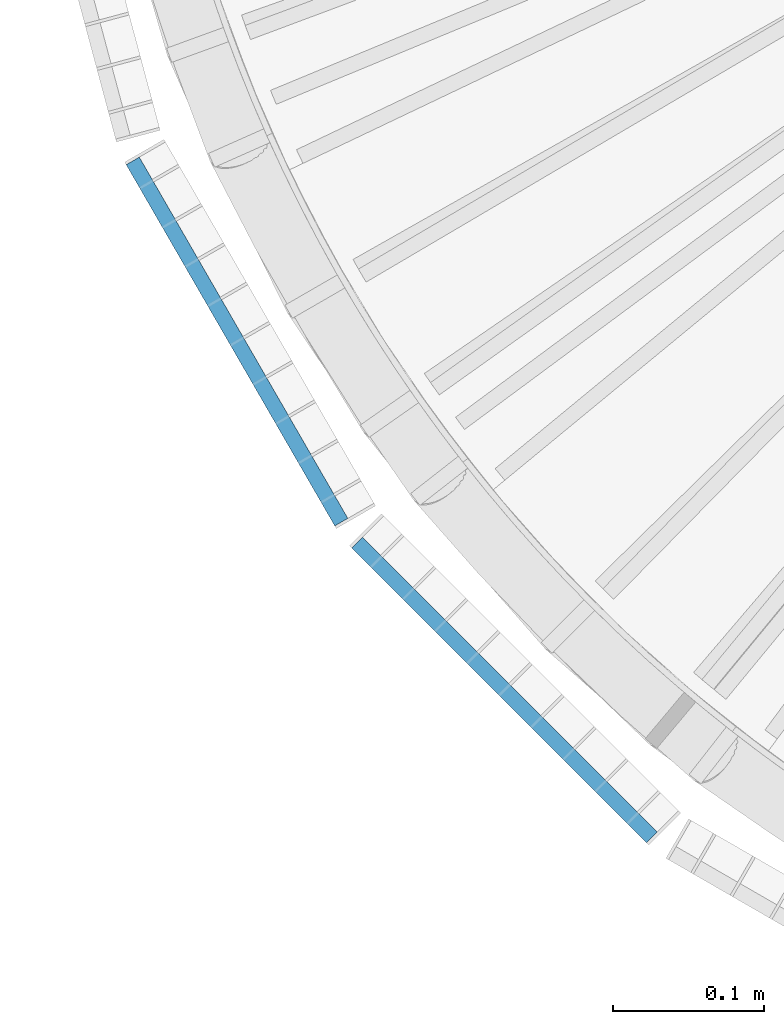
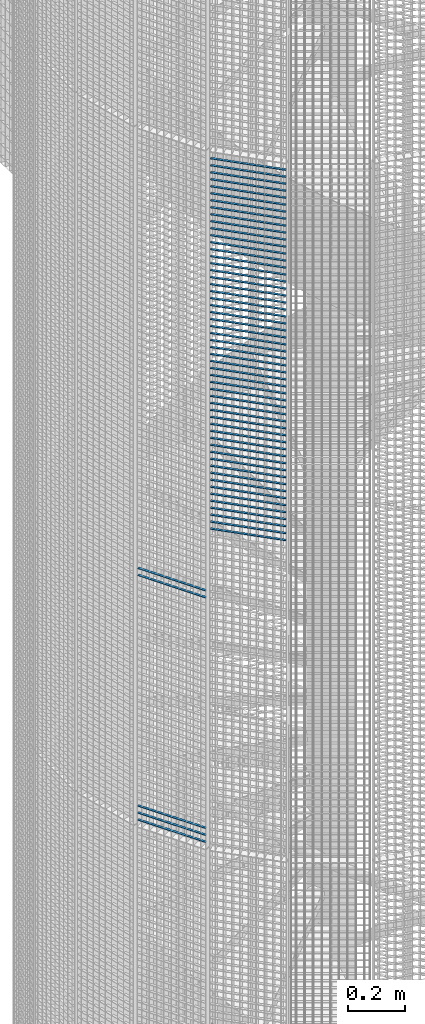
# One storey, part 360 of 1148: 59 beams, 2 elements without a shape of their own.
"""IFC2X3 building model written with IfcOpenShell, lengths in millimetres."""

from ifc_helpers import new_model, si_unit, frame, origin_with_axes, origin_2d_with_axis, place, context, subcontext, project, spatial, rectangle, extrude, material, type_object, element, aggregate, save


model = new_model("IFC2X3")

# Units and contexts
model_context = context("Model", 3, precision=1e-05, world=origin_with_axes())
body_context = subcontext(model_context, "Body", "Model", "MODEL_VIEW")
ifc_project = project(units=[si_unit("LENGTHUNIT", "METRE", prefix="MILLI"), si_unit("AREAUNIT", "SQUARE_METRE"), si_unit("VOLUMEUNIT", "CUBIC_METRE"), si_unit("MASSUNIT", "GRAM", prefix="KILO"), si_unit("TIMEUNIT", "SECOND"), si_unit("PLANEANGLEUNIT", "RADIAN"), si_unit("SOLIDANGLEUNIT", "STERADIAN"), si_unit("THERMODYNAMICTEMPERATUREUNIT", "DEGREE_CELSIUS"), si_unit("LUMINOUSINTENSITYUNIT", "LUMEN")], contexts=[model_context])

# Site, building, storey
site_placement = place(None, origin_with_axes())
site = spatial("IfcSite", under=ifc_project, at=site_placement, Name="Undefined", CompositionType="ELEMENT")
building_placement = place(site_placement, origin_with_axes())
building = spatial("IfcBuilding", under=site, at=building_placement, Name="Undefined", CompositionType="ELEMENT")
storey_placement = place(building_placement, origin_with_axes())
storey = spatial("IfcBuildingStorey", under=building, at=storey_placement, Name="Undefined", CompositionType="ELEMENT", Elevation=0.0)

# Assembly, beams
assembly_1_placement = place(storey_placement, origin_with_axes())
assembly_1 = element("IfcElementAssembly", 1, at=assembly_1_placement, inside=storey, Name="BORDURE", AssemblyPlace="NOTDEFINED", PredefinedType="NOTDEFINED")
ifc_material = material(Name="STEEL/S235JR")
beam_type = type_object("IfcBeamType", Name="PL2*10", PredefinedType="NOTDEFINED")
beam_1_placement = place(assembly_1_placement, frame((20704.6960350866, -676.248044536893, 4080.0), z_axis=(-0.866025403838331, -0.499999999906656, 0.0), x_axis=(-0.49999999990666, 0.866025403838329, 0.0)))
beam_1 = element("IfcBeam", 2, at=beam_1_placement, type_object=beam_type, material=ifc_material, Name="ENTRETOISE", context=body_context, shape_type="SweptSolid", body=[
    extrude(rectangle(XDim=2.0, YDim=10.0, at=origin_2d_with_axis()), frame((275.999999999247, 9.09494701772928e-13, 1.53210777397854e-14), z_axis=(-1.0, 0.0, 0.0), x_axis=(0.0, -1.0, 0.0)), (0.0, 0.0, 1.0), 276.0),
])
beam_2_placement = place(assembly_1_placement, frame((20704.6960350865, -676.248044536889, 3090.0), z_axis=(-0.866025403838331, -0.499999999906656, 0.0), x_axis=(-0.49999999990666, 0.866025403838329, 0.0)))
beam_2 = element("IfcBeam", 3, at=beam_2_placement, type_object=beam_type, material=ifc_material, Name="ENTRETOISE", context=body_context, shape_type="SweptSolid", body=[
    extrude(rectangle(XDim=2.0, YDim=10.0, at=origin_2d_with_axis()), frame((275.999999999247, 9.09494701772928e-13, 1.53210777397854e-14), z_axis=(-1.0, 0.0, 0.0), x_axis=(0.0, -1.0, 0.0)), (0.0, 0.0, 1.0), 276.0),
])
beam_3_placement = place(assembly_1_placement, frame((20704.6960350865, -676.248044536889, 3060.0), z_axis=(-0.866025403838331, -0.499999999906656, 0.0), x_axis=(-0.49999999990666, 0.866025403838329, 0.0)))
beam_3 = element("IfcBeam", 4, at=beam_3_placement, type_object=beam_type, material=ifc_material, Name="ENTRETOISE", context=body_context, shape_type="SweptSolid", body=[
    extrude(rectangle(XDim=2.0, YDim=10.0, at=origin_2d_with_axis()), frame((275.999999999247, 9.09494701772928e-13, 1.53210777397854e-14), z_axis=(-1.0, 0.0, 0.0), x_axis=(0.0, -1.0, 0.0)), (0.0, 0.0, 1.0), 276.0),
])
beam_4_placement = place(assembly_1_placement, frame((20704.6960350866, -676.248044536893, 4110.0), z_axis=(-0.866025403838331, -0.499999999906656, 0.0), x_axis=(-0.49999999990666, 0.866025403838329, 0.0)))
beam_4 = element("IfcBeam", 5, at=beam_4_placement, type_object=beam_type, material=ifc_material, Name="ENTRETOISE", context=body_context, shape_type="SweptSolid", body=[
    extrude(rectangle(XDim=2.0, YDim=10.0, at=origin_2d_with_axis()), frame((275.999999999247, 9.09494701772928e-13, 1.53210777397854e-14), z_axis=(-1.0, 0.0, 0.0), x_axis=(0.0, -1.0, 0.0)), (0.0, 0.0, 1.0), 276.0),
])
beam_5_placement = place(assembly_1_placement, frame((20704.6960350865, -676.248044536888, 3030.0), z_axis=(-0.866025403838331, -0.499999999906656, 0.0), x_axis=(-0.49999999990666, 0.866025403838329, 0.0)))
beam_5 = element("IfcBeam", 6, at=beam_5_placement, type_object=beam_type, material=ifc_material, Name="ENTRETOISE", context=body_context, shape_type="SweptSolid", body=[
    extrude(rectangle(XDim=2.0, YDim=10.0, at=origin_2d_with_axis()), frame((275.999999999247, 9.09494701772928e-13, 1.53210777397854e-14), z_axis=(-1.0, 0.0, 0.0), x_axis=(0.0, -1.0, 0.0)), (0.0, 0.0, 1.0), 276.0),
])
aggregate(assembly_1, [beam_1, beam_2, beam_3, beam_4, beam_5])

assembly_2_placement = place(storey_placement, origin_with_axes())
assembly_2 = element("IfcElementAssembly", 7, at=assembly_2_placement, inside=storey, Name="BORDURE", AssemblyPlace="NOTDEFINED", PredefinedType="NOTDEFINED")
beam_6_placement = place(assembly_2_placement, frame((20910.2286510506, -884.927168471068, 5970.0), z_axis=(-0.70710678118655, -0.707106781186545, 0.0), x_axis=(-0.707106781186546, 0.707106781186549, 0.0)))
beam_6 = element("IfcBeam", 8, at=beam_6_placement, type_object=beam_type, material=ifc_material, Name="ENTRETOISE", context=body_context, shape_type="SweptSolid", body=[
    extrude(rectangle(XDim=2.0, YDim=10.0, at=origin_2d_with_axis()), frame((275.999999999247, 9.09494701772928e-13, 1.53210777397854e-14), z_axis=(-1.0, 0.0, 0.0), x_axis=(0.0, -1.0, 0.0)), (0.0, 0.0, 1.0), 276.0),
])
beam_7_placement = place(assembly_2_placement, frame((20910.2286510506, -884.927168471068, 5940.0), z_axis=(-0.70710678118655, -0.707106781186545, 0.0), x_axis=(-0.707106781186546, 0.707106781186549, 0.0)))
beam_7 = element("IfcBeam", 9, at=beam_7_placement, type_object=beam_type, material=ifc_material, Name="ENTRETOISE", context=body_context, shape_type="SweptSolid", body=[
    extrude(rectangle(XDim=2.0, YDim=10.0, at=origin_2d_with_axis()), frame((275.999999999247, 9.09494701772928e-13, 1.53210777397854e-14), z_axis=(-1.0, 0.0, 0.0), x_axis=(0.0, -1.0, 0.0)), (0.0, 0.0, 1.0), 276.0),
])
beam_8_placement = place(assembly_2_placement, frame((20910.2286510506, -884.927168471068, 5910.0), z_axis=(-0.70710678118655, -0.707106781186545, 0.0), x_axis=(-0.707106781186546, 0.707106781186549, 0.0)))
beam_8 = element("IfcBeam", 10, at=beam_8_placement, type_object=beam_type, material=ifc_material, Name="ENTRETOISE", context=body_context, shape_type="SweptSolid", body=[
    extrude(rectangle(XDim=2.0, YDim=10.0, at=origin_2d_with_axis()), frame((275.999999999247, 9.09494701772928e-13, 1.53210777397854e-14), z_axis=(-1.0, 0.0, 0.0), x_axis=(0.0, -1.0, 0.0)), (0.0, 0.0, 1.0), 276.0),
])
beam_9_placement = place(assembly_2_placement, frame((20910.2286510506, -884.927168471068, 5880.0), z_axis=(-0.70710678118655, -0.707106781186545, 0.0), x_axis=(-0.707106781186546, 0.707106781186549, 0.0)))
beam_9 = element("IfcBeam", 11, at=beam_9_placement, type_object=beam_type, material=ifc_material, Name="ENTRETOISE", context=body_context, shape_type="SweptSolid", body=[
    extrude(rectangle(XDim=2.0, YDim=10.0, at=origin_2d_with_axis()), frame((275.999999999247, 9.09494701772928e-13, 1.53210777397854e-14), z_axis=(-1.0, 0.0, 0.0), x_axis=(0.0, -1.0, 0.0)), (0.0, 0.0, 1.0), 276.0),
])
beam_10_placement = place(assembly_2_placement, frame((20910.2286510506, -884.927168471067, 5850.0), z_axis=(-0.70710678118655, -0.707106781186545, 0.0), x_axis=(-0.707106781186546, 0.707106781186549, 0.0)))
beam_10 = element("IfcBeam", 12, at=beam_10_placement, type_object=beam_type, material=ifc_material, Name="ENTRETOISE", context=body_context, shape_type="SweptSolid", body=[
    extrude(rectangle(XDim=2.0, YDim=10.0, at=origin_2d_with_axis()), frame((275.999999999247, 9.09494701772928e-13, 1.53210777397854e-14), z_axis=(-1.0, 0.0, 0.0), x_axis=(0.0, -1.0, 0.0)), (0.0, 0.0, 1.0), 276.0),
])
beam_11_placement = place(assembly_2_placement, frame((20910.2286510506, -884.927168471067, 5820.0), z_axis=(-0.70710678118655, -0.707106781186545, 0.0), x_axis=(-0.707106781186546, 0.707106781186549, 0.0)))
beam_11 = element("IfcBeam", 13, at=beam_11_placement, type_object=beam_type, material=ifc_material, Name="ENTRETOISE", context=body_context, shape_type="SweptSolid", body=[
    extrude(rectangle(XDim=2.0, YDim=10.0, at=origin_2d_with_axis()), frame((275.999999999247, 9.09494701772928e-13, 1.53210777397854e-14), z_axis=(-1.0, 0.0, 0.0), x_axis=(0.0, -1.0, 0.0)), (0.0, 0.0, 1.0), 276.0),
])
beam_12_placement = place(assembly_2_placement, frame((20910.2286510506, -884.927168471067, 5790.0), z_axis=(-0.70710678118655, -0.707106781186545, 0.0), x_axis=(-0.707106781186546, 0.707106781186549, 0.0)))
beam_12 = element("IfcBeam", 14, at=beam_12_placement, type_object=beam_type, material=ifc_material, Name="ENTRETOISE", context=body_context, shape_type="SweptSolid", body=[
    extrude(rectangle(XDim=2.0, YDim=10.0, at=origin_2d_with_axis()), frame((275.999999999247, 9.09494701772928e-13, 1.53210777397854e-14), z_axis=(-1.0, 0.0, 0.0), x_axis=(0.0, -1.0, 0.0)), (0.0, 0.0, 1.0), 276.0),
])
beam_13_placement = place(assembly_2_placement, frame((20910.2286510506, -884.927168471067, 5760.0), z_axis=(-0.70710678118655, -0.707106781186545, 0.0), x_axis=(-0.707106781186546, 0.707106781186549, 0.0)))
beam_13 = element("IfcBeam", 15, at=beam_13_placement, type_object=beam_type, material=ifc_material, Name="ENTRETOISE", context=body_context, shape_type="SweptSolid", body=[
    extrude(rectangle(XDim=2.0, YDim=10.0, at=origin_2d_with_axis()), frame((275.999999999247, 9.09494701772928e-13, 1.53210777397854e-14), z_axis=(-1.0, 0.0, 0.0), x_axis=(0.0, -1.0, 0.0)), (0.0, 0.0, 1.0), 276.0),
])
beam_14_placement = place(assembly_2_placement, frame((20910.2286510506, -884.927168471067, 5730.0), z_axis=(-0.70710678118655, -0.707106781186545, 0.0), x_axis=(-0.707106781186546, 0.707106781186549, 0.0)))
beam_14 = element("IfcBeam", 16, at=beam_14_placement, type_object=beam_type, material=ifc_material, Name="ENTRETOISE", context=body_context, shape_type="SweptSolid", body=[
    extrude(rectangle(XDim=2.0, YDim=10.0, at=origin_2d_with_axis()), frame((275.999999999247, 9.09494701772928e-13, 1.53210777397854e-14), z_axis=(-1.0, 0.0, 0.0), x_axis=(0.0, -1.0, 0.0)), (0.0, 0.0, 1.0), 276.0),
])
beam_15_placement = place(assembly_2_placement, frame((20910.2286510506, -884.927168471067, 5700.0), z_axis=(-0.70710678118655, -0.707106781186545, 0.0), x_axis=(-0.707106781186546, 0.707106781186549, 0.0)))
beam_15 = element("IfcBeam", 17, at=beam_15_placement, type_object=beam_type, material=ifc_material, Name="ENTRETOISE", context=body_context, shape_type="SweptSolid", body=[
    extrude(rectangle(XDim=2.0, YDim=10.0, at=origin_2d_with_axis()), frame((275.999999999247, 9.09494701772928e-13, 1.53210777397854e-14), z_axis=(-1.0, 0.0, 0.0), x_axis=(0.0, -1.0, 0.0)), (0.0, 0.0, 1.0), 276.0),
])
beam_16_placement = place(assembly_2_placement, frame((20910.2286510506, -884.927168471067, 5670.0), z_axis=(-0.70710678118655, -0.707106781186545, 0.0), x_axis=(-0.707106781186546, 0.707106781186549, 0.0)))
beam_16 = element("IfcBeam", 18, at=beam_16_placement, type_object=beam_type, material=ifc_material, Name="ENTRETOISE", context=body_context, shape_type="SweptSolid", body=[
    extrude(rectangle(XDim=2.0, YDim=10.0, at=origin_2d_with_axis()), frame((275.999999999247, 9.09494701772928e-13, 1.53210777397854e-14), z_axis=(-1.0, 0.0, 0.0), x_axis=(0.0, -1.0, 0.0)), (0.0, 0.0, 1.0), 276.0),
])
beam_17_placement = place(assembly_2_placement, frame((20910.2286510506, -884.927168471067, 5640.0), z_axis=(-0.70710678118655, -0.707106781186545, 0.0), x_axis=(-0.707106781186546, 0.707106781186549, 0.0)))
beam_17 = element("IfcBeam", 19, at=beam_17_placement, type_object=beam_type, material=ifc_material, Name="ENTRETOISE", context=body_context, shape_type="SweptSolid", body=[
    extrude(rectangle(XDim=2.0, YDim=10.0, at=origin_2d_with_axis()), frame((275.999999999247, 9.09494701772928e-13, 1.53210777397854e-14), z_axis=(-1.0, 0.0, 0.0), x_axis=(0.0, -1.0, 0.0)), (0.0, 0.0, 1.0), 276.0),
])
beam_18_placement = place(assembly_2_placement, frame((20910.2286510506, -884.927168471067, 5610.0), z_axis=(-0.70710678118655, -0.707106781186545, 0.0), x_axis=(-0.707106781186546, 0.707106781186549, 0.0)))
beam_18 = element("IfcBeam", 20, at=beam_18_placement, type_object=beam_type, material=ifc_material, Name="ENTRETOISE", context=body_context, shape_type="SweptSolid", body=[
    extrude(rectangle(XDim=2.0, YDim=10.0, at=origin_2d_with_axis()), frame((275.999999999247, 9.09494701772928e-13, 1.53210777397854e-14), z_axis=(-1.0, 0.0, 0.0), x_axis=(0.0, -1.0, 0.0)), (0.0, 0.0, 1.0), 276.0),
])
beam_19_placement = place(assembly_2_placement, frame((20910.2286510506, -884.927168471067, 5580.0), z_axis=(-0.70710678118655, -0.707106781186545, 0.0), x_axis=(-0.707106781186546, 0.707106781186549, 0.0)))
beam_19 = element("IfcBeam", 21, at=beam_19_placement, type_object=beam_type, material=ifc_material, Name="ENTRETOISE", context=body_context, shape_type="SweptSolid", body=[
    extrude(rectangle(XDim=2.0, YDim=10.0, at=origin_2d_with_axis()), frame((275.999999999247, 9.09494701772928e-13, 1.53210777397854e-14), z_axis=(-1.0, 0.0, 0.0), x_axis=(0.0, -1.0, 0.0)), (0.0, 0.0, 1.0), 276.0),
])
beam_20_placement = place(assembly_2_placement, frame((20910.2286510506, -884.927168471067, 5550.0), z_axis=(-0.70710678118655, -0.707106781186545, 0.0), x_axis=(-0.707106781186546, 0.707106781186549, 0.0)))
beam_20 = element("IfcBeam", 22, at=beam_20_placement, type_object=beam_type, material=ifc_material, Name="ENTRETOISE", context=body_context, shape_type="SweptSolid", body=[
    extrude(rectangle(XDim=2.0, YDim=10.0, at=origin_2d_with_axis()), frame((275.999999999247, 9.09494701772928e-13, 1.53210777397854e-14), z_axis=(-1.0, 0.0, 0.0), x_axis=(0.0, -1.0, 0.0)), (0.0, 0.0, 1.0), 276.0),
])
beam_21_placement = place(assembly_2_placement, frame((20910.2286510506, -884.927168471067, 5520.0), z_axis=(-0.70710678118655, -0.707106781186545, 0.0), x_axis=(-0.707106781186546, 0.707106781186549, 0.0)))
beam_21 = element("IfcBeam", 23, at=beam_21_placement, type_object=beam_type, material=ifc_material, Name="ENTRETOISE", context=body_context, shape_type="SweptSolid", body=[
    extrude(rectangle(XDim=2.0, YDim=10.0, at=origin_2d_with_axis()), frame((275.999999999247, 9.09494701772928e-13, 1.53210777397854e-14), z_axis=(-1.0, 0.0, 0.0), x_axis=(0.0, -1.0, 0.0)), (0.0, 0.0, 1.0), 276.0),
])
beam_22_placement = place(assembly_2_placement, frame((20910.2286510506, -884.927168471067, 5490.0), z_axis=(-0.70710678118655, -0.707106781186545, 0.0), x_axis=(-0.707106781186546, 0.707106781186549, 0.0)))
beam_22 = element("IfcBeam", 24, at=beam_22_placement, type_object=beam_type, material=ifc_material, Name="ENTRETOISE", context=body_context, shape_type="SweptSolid", body=[
    extrude(rectangle(XDim=2.0, YDim=10.0, at=origin_2d_with_axis()), frame((275.999999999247, 9.09494701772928e-13, 1.53210777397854e-14), z_axis=(-1.0, 0.0, 0.0), x_axis=(0.0, -1.0, 0.0)), (0.0, 0.0, 1.0), 276.0),
])
beam_23_placement = place(assembly_2_placement, frame((20910.2286510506, -884.927168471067, 5460.0), z_axis=(-0.70710678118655, -0.707106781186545, 0.0), x_axis=(-0.707106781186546, 0.707106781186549, 0.0)))
beam_23 = element("IfcBeam", 25, at=beam_23_placement, type_object=beam_type, material=ifc_material, Name="ENTRETOISE", context=body_context, shape_type="SweptSolid", body=[
    extrude(rectangle(XDim=2.0, YDim=10.0, at=origin_2d_with_axis()), frame((275.999999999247, 9.09494701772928e-13, 1.53210777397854e-14), z_axis=(-1.0, 0.0, 0.0), x_axis=(0.0, -1.0, 0.0)), (0.0, 0.0, 1.0), 276.0),
])
beam_24_placement = place(assembly_2_placement, frame((20910.2286510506, -884.927168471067, 5430.0), z_axis=(-0.70710678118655, -0.707106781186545, 0.0), x_axis=(-0.707106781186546, 0.707106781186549, 0.0)))
beam_24 = element("IfcBeam", 26, at=beam_24_placement, type_object=beam_type, material=ifc_material, Name="ENTRETOISE", context=body_context, shape_type="SweptSolid", body=[
    extrude(rectangle(XDim=2.0, YDim=10.0, at=origin_2d_with_axis()), frame((275.999999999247, 9.09494701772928e-13, 1.53210777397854e-14), z_axis=(-1.0, 0.0, 0.0), x_axis=(0.0, -1.0, 0.0)), (0.0, 0.0, 1.0), 276.0),
])
beam_25_placement = place(assembly_2_placement, frame((20910.2286510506, -884.927168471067, 5400.0), z_axis=(-0.70710678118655, -0.707106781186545, 0.0), x_axis=(-0.707106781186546, 0.707106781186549, 0.0)))
beam_25 = element("IfcBeam", 27, at=beam_25_placement, type_object=beam_type, material=ifc_material, Name="ENTRETOISE", context=body_context, shape_type="SweptSolid", body=[
    extrude(rectangle(XDim=2.0, YDim=10.0, at=origin_2d_with_axis()), frame((275.999999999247, 9.09494701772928e-13, 1.53210777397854e-14), z_axis=(-1.0, 0.0, 0.0), x_axis=(0.0, -1.0, 0.0)), (0.0, 0.0, 1.0), 276.0),
])
beam_26_placement = place(assembly_2_placement, frame((20910.2286510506, -884.927168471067, 5370.0), z_axis=(-0.70710678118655, -0.707106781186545, 0.0), x_axis=(-0.707106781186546, 0.707106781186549, 0.0)))
beam_26 = element("IfcBeam", 28, at=beam_26_placement, type_object=beam_type, material=ifc_material, Name="ENTRETOISE", context=body_context, shape_type="SweptSolid", body=[
    extrude(rectangle(XDim=2.0, YDim=10.0, at=origin_2d_with_axis()), frame((275.999999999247, 9.09494701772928e-13, 1.53210777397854e-14), z_axis=(-1.0, 0.0, 0.0), x_axis=(0.0, -1.0, 0.0)), (0.0, 0.0, 1.0), 276.0),
])
beam_27_placement = place(assembly_2_placement, frame((20910.2286510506, -884.927168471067, 5340.0), z_axis=(-0.70710678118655, -0.707106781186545, 0.0), x_axis=(-0.707106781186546, 0.707106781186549, 0.0)))
beam_27 = element("IfcBeam", 29, at=beam_27_placement, type_object=beam_type, material=ifc_material, Name="ENTRETOISE", context=body_context, shape_type="SweptSolid", body=[
    extrude(rectangle(XDim=2.0, YDim=10.0, at=origin_2d_with_axis()), frame((275.999999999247, 9.09494701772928e-13, 1.53210777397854e-14), z_axis=(-1.0, 0.0, 0.0), x_axis=(0.0, -1.0, 0.0)), (0.0, 0.0, 1.0), 276.0),
])
beam_28_placement = place(assembly_2_placement, frame((20910.2286510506, -884.927168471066, 5310.0), z_axis=(-0.70710678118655, -0.707106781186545, 0.0), x_axis=(-0.707106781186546, 0.707106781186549, 0.0)))
beam_28 = element("IfcBeam", 30, at=beam_28_placement, type_object=beam_type, material=ifc_material, Name="ENTRETOISE", context=body_context, shape_type="SweptSolid", body=[
    extrude(rectangle(XDim=2.0, YDim=10.0, at=origin_2d_with_axis()), frame((275.999999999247, 9.09494701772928e-13, 1.53210777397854e-14), z_axis=(-1.0, 0.0, 0.0), x_axis=(0.0, -1.0, 0.0)), (0.0, 0.0, 1.0), 276.0),
])
beam_29_placement = place(assembly_2_placement, frame((20910.2286510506, -884.927168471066, 5280.0), z_axis=(-0.70710678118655, -0.707106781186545, 0.0), x_axis=(-0.707106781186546, 0.707106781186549, 0.0)))
beam_29 = element("IfcBeam", 31, at=beam_29_placement, type_object=beam_type, material=ifc_material, Name="ENTRETOISE", context=body_context, shape_type="SweptSolid", body=[
    extrude(rectangle(XDim=2.0, YDim=10.0, at=origin_2d_with_axis()), frame((275.999999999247, 9.09494701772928e-13, 1.53210777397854e-14), z_axis=(-1.0, 0.0, 0.0), x_axis=(0.0, -1.0, 0.0)), (0.0, 0.0, 1.0), 276.0),
])
beam_30_placement = place(assembly_2_placement, frame((20910.2286510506, -884.927168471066, 5250.0), z_axis=(-0.70710678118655, -0.707106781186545, 0.0), x_axis=(-0.707106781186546, 0.707106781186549, 0.0)))
beam_30 = element("IfcBeam", 32, at=beam_30_placement, type_object=beam_type, material=ifc_material, Name="ENTRETOISE", context=body_context, shape_type="SweptSolid", body=[
    extrude(rectangle(XDim=2.0, YDim=10.0, at=origin_2d_with_axis()), frame((275.999999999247, 9.09494701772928e-13, 1.53210777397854e-14), z_axis=(-1.0, 0.0, 0.0), x_axis=(0.0, -1.0, 0.0)), (0.0, 0.0, 1.0), 276.0),
])
beam_31_placement = place(assembly_2_placement, frame((20910.2286510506, -884.927168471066, 5220.0), z_axis=(-0.70710678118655, -0.707106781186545, 0.0), x_axis=(-0.707106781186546, 0.707106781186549, 0.0)))
beam_31 = element("IfcBeam", 33, at=beam_31_placement, type_object=beam_type, material=ifc_material, Name="ENTRETOISE", context=body_context, shape_type="SweptSolid", body=[
    extrude(rectangle(XDim=2.0, YDim=10.0, at=origin_2d_with_axis()), frame((275.999999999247, 9.09494701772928e-13, 1.53210777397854e-14), z_axis=(-1.0, 0.0, 0.0), x_axis=(0.0, -1.0, 0.0)), (0.0, 0.0, 1.0), 276.0),
])
beam_32_placement = place(assembly_2_placement, frame((20910.2286510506, -884.927168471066, 5190.0), z_axis=(-0.70710678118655, -0.707106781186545, 0.0), x_axis=(-0.707106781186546, 0.707106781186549, 0.0)))
beam_32 = element("IfcBeam", 34, at=beam_32_placement, type_object=beam_type, material=ifc_material, Name="ENTRETOISE", context=body_context, shape_type="SweptSolid", body=[
    extrude(rectangle(XDim=2.0, YDim=10.0, at=origin_2d_with_axis()), frame((275.999999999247, 9.09494701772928e-13, 1.53210777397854e-14), z_axis=(-1.0, 0.0, 0.0), x_axis=(0.0, -1.0, 0.0)), (0.0, 0.0, 1.0), 276.0),
])
beam_33_placement = place(assembly_2_placement, frame((20910.2286510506, -884.927168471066, 5160.0), z_axis=(-0.70710678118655, -0.707106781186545, 0.0), x_axis=(-0.707106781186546, 0.707106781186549, 0.0)))
beam_33 = element("IfcBeam", 35, at=beam_33_placement, type_object=beam_type, material=ifc_material, Name="ENTRETOISE", context=body_context, shape_type="SweptSolid", body=[
    extrude(rectangle(XDim=2.0, YDim=10.0, at=origin_2d_with_axis()), frame((275.999999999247, 9.09494701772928e-13, 1.53210777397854e-14), z_axis=(-1.0, 0.0, 0.0), x_axis=(0.0, -1.0, 0.0)), (0.0, 0.0, 1.0), 276.0),
])
beam_34_placement = place(assembly_2_placement, frame((20910.2286510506, -884.927168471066, 5130.0), z_axis=(-0.70710678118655, -0.707106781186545, 0.0), x_axis=(-0.707106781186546, 0.707106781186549, 0.0)))
beam_34 = element("IfcBeam", 36, at=beam_34_placement, type_object=beam_type, material=ifc_material, Name="ENTRETOISE", context=body_context, shape_type="SweptSolid", body=[
    extrude(rectangle(XDim=2.0, YDim=10.0, at=origin_2d_with_axis()), frame((275.999999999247, 9.09494701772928e-13, 1.53210777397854e-14), z_axis=(-1.0, 0.0, 0.0), x_axis=(0.0, -1.0, 0.0)), (0.0, 0.0, 1.0), 276.0),
])
beam_35_placement = place(assembly_2_placement, frame((20910.2286510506, -884.927168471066, 5100.0), z_axis=(-0.70710678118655, -0.707106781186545, 0.0), x_axis=(-0.707106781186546, 0.707106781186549, 0.0)))
beam_35 = element("IfcBeam", 37, at=beam_35_placement, type_object=beam_type, material=ifc_material, Name="ENTRETOISE", context=body_context, shape_type="SweptSolid", body=[
    extrude(rectangle(XDim=2.0, YDim=10.0, at=origin_2d_with_axis()), frame((275.999999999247, 9.09494701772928e-13, 1.53210777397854e-14), z_axis=(-1.0, 0.0, 0.0), x_axis=(0.0, -1.0, 0.0)), (0.0, 0.0, 1.0), 276.0),
])
beam_36_placement = place(assembly_2_placement, frame((20910.2286510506, -884.927168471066, 5070.0), z_axis=(-0.70710678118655, -0.707106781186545, 0.0), x_axis=(-0.707106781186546, 0.707106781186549, 0.0)))
beam_36 = element("IfcBeam", 38, at=beam_36_placement, type_object=beam_type, material=ifc_material, Name="ENTRETOISE", context=body_context, shape_type="SweptSolid", body=[
    extrude(rectangle(XDim=2.0, YDim=10.0, at=origin_2d_with_axis()), frame((275.999999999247, 9.09494701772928e-13, 1.53210777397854e-14), z_axis=(-1.0, 0.0, 0.0), x_axis=(0.0, -1.0, 0.0)), (0.0, 0.0, 1.0), 276.0),
])
beam_37_placement = place(assembly_2_placement, frame((20910.2286510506, -884.927168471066, 5040.0), z_axis=(-0.70710678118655, -0.707106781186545, 0.0), x_axis=(-0.707106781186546, 0.707106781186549, 0.0)))
beam_37 = element("IfcBeam", 39, at=beam_37_placement, type_object=beam_type, material=ifc_material, Name="ENTRETOISE", context=body_context, shape_type="SweptSolid", body=[
    extrude(rectangle(XDim=2.0, YDim=10.0, at=origin_2d_with_axis()), frame((275.999999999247, 9.09494701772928e-13, 1.53210777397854e-14), z_axis=(-1.0, 0.0, 0.0), x_axis=(0.0, -1.0, 0.0)), (0.0, 0.0, 1.0), 276.0),
])
beam_38_placement = place(assembly_2_placement, frame((20910.2286510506, -884.927168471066, 5010.0), z_axis=(-0.70710678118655, -0.707106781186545, 0.0), x_axis=(-0.707106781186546, 0.707106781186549, 0.0)))
beam_38 = element("IfcBeam", 40, at=beam_38_placement, type_object=beam_type, material=ifc_material, Name="ENTRETOISE", context=body_context, shape_type="SweptSolid", body=[
    extrude(rectangle(XDim=2.0, YDim=10.0, at=origin_2d_with_axis()), frame((275.999999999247, 9.09494701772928e-13, 1.53210777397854e-14), z_axis=(-1.0, 0.0, 0.0), x_axis=(0.0, -1.0, 0.0)), (0.0, 0.0, 1.0), 276.0),
])
beam_39_placement = place(assembly_2_placement, frame((20910.2286510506, -884.927168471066, 4980.0), z_axis=(-0.70710678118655, -0.707106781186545, 0.0), x_axis=(-0.707106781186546, 0.707106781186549, 0.0)))
beam_39 = element("IfcBeam", 41, at=beam_39_placement, type_object=beam_type, material=ifc_material, Name="ENTRETOISE", context=body_context, shape_type="SweptSolid", body=[
    extrude(rectangle(XDim=2.0, YDim=10.0, at=origin_2d_with_axis()), frame((275.999999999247, 9.09494701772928e-13, 1.53210777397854e-14), z_axis=(-1.0, 0.0, 0.0), x_axis=(0.0, -1.0, 0.0)), (0.0, 0.0, 1.0), 276.0),
])
beam_40_placement = place(assembly_2_placement, frame((20910.2286510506, -884.927168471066, 4950.0), z_axis=(-0.70710678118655, -0.707106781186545, 0.0), x_axis=(-0.707106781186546, 0.707106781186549, 0.0)))
beam_40 = element("IfcBeam", 42, at=beam_40_placement, type_object=beam_type, material=ifc_material, Name="ENTRETOISE", context=body_context, shape_type="SweptSolid", body=[
    extrude(rectangle(XDim=2.0, YDim=10.0, at=origin_2d_with_axis()), frame((275.999999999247, 9.09494701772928e-13, 1.53210777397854e-14), z_axis=(-1.0, 0.0, 0.0), x_axis=(0.0, -1.0, 0.0)), (0.0, 0.0, 1.0), 276.0),
])
beam_41_placement = place(assembly_2_placement, frame((20910.2286510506, -884.927168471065, 4920.0), z_axis=(-0.70710678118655, -0.707106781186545, 0.0), x_axis=(-0.707106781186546, 0.707106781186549, 0.0)))
beam_41 = element("IfcBeam", 43, at=beam_41_placement, type_object=beam_type, material=ifc_material, Name="ENTRETOISE", context=body_context, shape_type="SweptSolid", body=[
    extrude(rectangle(XDim=2.0, YDim=10.0, at=origin_2d_with_axis()), frame((275.999999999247, 9.09494701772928e-13, 1.53210777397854e-14), z_axis=(-1.0, 0.0, 0.0), x_axis=(0.0, -1.0, 0.0)), (0.0, 0.0, 1.0), 276.0),
])
beam_42_placement = place(assembly_2_placement, frame((20910.2286510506, -884.927168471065, 4890.0), z_axis=(-0.70710678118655, -0.707106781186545, 0.0), x_axis=(-0.707106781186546, 0.707106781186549, 0.0)))
beam_42 = element("IfcBeam", 44, at=beam_42_placement, type_object=beam_type, material=ifc_material, Name="ENTRETOISE", context=body_context, shape_type="SweptSolid", body=[
    extrude(rectangle(XDim=2.0, YDim=10.0, at=origin_2d_with_axis()), frame((275.999999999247, 9.09494701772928e-13, 1.53210777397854e-14), z_axis=(-1.0, 0.0, 0.0), x_axis=(0.0, -1.0, 0.0)), (0.0, 0.0, 1.0), 276.0),
])
beam_43_placement = place(assembly_2_placement, frame((20910.2286510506, -884.927168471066, 4860.0), z_axis=(-0.70710678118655, -0.707106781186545, 0.0), x_axis=(-0.707106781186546, 0.707106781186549, 0.0)))
beam_43 = element("IfcBeam", 45, at=beam_43_placement, type_object=beam_type, material=ifc_material, Name="ENTRETOISE", context=body_context, shape_type="SweptSolid", body=[
    extrude(rectangle(XDim=2.0, YDim=10.0, at=origin_2d_with_axis()), frame((275.999999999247, 9.09494701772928e-13, 1.53210777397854e-14), z_axis=(-1.0, 0.0, 0.0), x_axis=(0.0, -1.0, 0.0)), (0.0, 0.0, 1.0), 276.0),
])
beam_44_placement = place(assembly_2_placement, frame((20910.2286510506, -884.927168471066, 4830.0), z_axis=(-0.70710678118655, -0.707106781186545, 0.0), x_axis=(-0.707106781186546, 0.707106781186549, 0.0)))
beam_44 = element("IfcBeam", 46, at=beam_44_placement, type_object=beam_type, material=ifc_material, Name="ENTRETOISE", context=body_context, shape_type="SweptSolid", body=[
    extrude(rectangle(XDim=2.0, YDim=10.0, at=origin_2d_with_axis()), frame((275.999999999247, 9.09494701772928e-13, 1.53210777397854e-14), z_axis=(-1.0, 0.0, 0.0), x_axis=(0.0, -1.0, 0.0)), (0.0, 0.0, 1.0), 276.0),
])
beam_45_placement = place(assembly_2_placement, frame((20910.2286510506, -884.927168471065, 4800.0), z_axis=(-0.70710678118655, -0.707106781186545, 0.0), x_axis=(-0.707106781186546, 0.707106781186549, 0.0)))
beam_45 = element("IfcBeam", 47, at=beam_45_placement, type_object=beam_type, material=ifc_material, Name="ENTRETOISE", context=body_context, shape_type="SweptSolid", body=[
    extrude(rectangle(XDim=2.0, YDim=10.0, at=origin_2d_with_axis()), frame((275.999999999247, 9.09494701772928e-13, 1.53210777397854e-14), z_axis=(-1.0, 0.0, 0.0), x_axis=(0.0, -1.0, 0.0)), (0.0, 0.0, 1.0), 276.0),
])
beam_46_placement = place(assembly_2_placement, frame((20910.2286510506, -884.927168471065, 4770.0), z_axis=(-0.70710678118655, -0.707106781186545, 0.0), x_axis=(-0.707106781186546, 0.707106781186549, 0.0)))
beam_46 = element("IfcBeam", 48, at=beam_46_placement, type_object=beam_type, material=ifc_material, Name="ENTRETOISE", context=body_context, shape_type="SweptSolid", body=[
    extrude(rectangle(XDim=2.0, YDim=10.0, at=origin_2d_with_axis()), frame((275.999999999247, 9.09494701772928e-13, 1.53210777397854e-14), z_axis=(-1.0, 0.0, 0.0), x_axis=(0.0, -1.0, 0.0)), (0.0, 0.0, 1.0), 276.0),
])
beam_47_placement = place(assembly_2_placement, frame((20910.2286510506, -884.927168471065, 4740.0), z_axis=(-0.70710678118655, -0.707106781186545, 0.0), x_axis=(-0.707106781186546, 0.707106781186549, 0.0)))
beam_47 = element("IfcBeam", 49, at=beam_47_placement, type_object=beam_type, material=ifc_material, Name="ENTRETOISE", context=body_context, shape_type="SweptSolid", body=[
    extrude(rectangle(XDim=2.0, YDim=10.0, at=origin_2d_with_axis()), frame((275.999999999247, 9.09494701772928e-13, 1.53210777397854e-14), z_axis=(-1.0, 0.0, 0.0), x_axis=(0.0, -1.0, 0.0)), (0.0, 0.0, 1.0), 276.0),
])
beam_48_placement = place(assembly_2_placement, frame((20910.2286510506, -884.927168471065, 4710.0), z_axis=(-0.70710678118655, -0.707106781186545, 0.0), x_axis=(-0.707106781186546, 0.707106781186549, 0.0)))
beam_48 = element("IfcBeam", 50, at=beam_48_placement, type_object=beam_type, material=ifc_material, Name="ENTRETOISE", context=body_context, shape_type="SweptSolid", body=[
    extrude(rectangle(XDim=2.0, YDim=10.0, at=origin_2d_with_axis()), frame((275.999999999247, 9.09494701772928e-13, 1.53210777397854e-14), z_axis=(-1.0, 0.0, 0.0), x_axis=(0.0, -1.0, 0.0)), (0.0, 0.0, 1.0), 276.0),
])
beam_49_placement = place(assembly_2_placement, frame((20910.2286510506, -884.927168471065, 4680.0), z_axis=(-0.70710678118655, -0.707106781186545, 0.0), x_axis=(-0.707106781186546, 0.707106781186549, 0.0)))
beam_49 = element("IfcBeam", 51, at=beam_49_placement, type_object=beam_type, material=ifc_material, Name="ENTRETOISE", context=body_context, shape_type="SweptSolid", body=[
    extrude(rectangle(XDim=2.0, YDim=10.0, at=origin_2d_with_axis()), frame((275.999999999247, 9.09494701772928e-13, 1.53210777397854e-14), z_axis=(-1.0, 0.0, 0.0), x_axis=(0.0, -1.0, 0.0)), (0.0, 0.0, 1.0), 276.0),
])
beam_50_placement = place(assembly_2_placement, frame((20910.2286510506, -884.927168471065, 4650.0), z_axis=(-0.70710678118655, -0.707106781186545, 0.0), x_axis=(-0.707106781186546, 0.707106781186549, 0.0)))
beam_50 = element("IfcBeam", 52, at=beam_50_placement, type_object=beam_type, material=ifc_material, Name="ENTRETOISE", context=body_context, shape_type="SweptSolid", body=[
    extrude(rectangle(XDim=2.0, YDim=10.0, at=origin_2d_with_axis()), frame((275.999999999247, 9.09494701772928e-13, 1.53210777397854e-14), z_axis=(-1.0, 0.0, 0.0), x_axis=(0.0, -1.0, 0.0)), (0.0, 0.0, 1.0), 276.0),
])
beam_51_placement = place(assembly_2_placement, frame((20910.2286510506, -884.927168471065, 4620.0), z_axis=(-0.70710678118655, -0.707106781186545, 0.0), x_axis=(-0.707106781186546, 0.707106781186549, 0.0)))
beam_51 = element("IfcBeam", 53, at=beam_51_placement, type_object=beam_type, material=ifc_material, Name="ENTRETOISE", context=body_context, shape_type="SweptSolid", body=[
    extrude(rectangle(XDim=2.0, YDim=10.0, at=origin_2d_with_axis()), frame((275.999999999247, 9.09494701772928e-13, 1.53210777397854e-14), z_axis=(-1.0, 0.0, 0.0), x_axis=(0.0, -1.0, 0.0)), (0.0, 0.0, 1.0), 276.0),
])
beam_52_placement = place(assembly_2_placement, frame((20910.2286510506, -884.927168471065, 4590.0), z_axis=(-0.70710678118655, -0.707106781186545, 0.0), x_axis=(-0.707106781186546, 0.707106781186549, 0.0)))
beam_52 = element("IfcBeam", 54, at=beam_52_placement, type_object=beam_type, material=ifc_material, Name="ENTRETOISE", context=body_context, shape_type="SweptSolid", body=[
    extrude(rectangle(XDim=2.0, YDim=10.0, at=origin_2d_with_axis()), frame((275.999999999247, 9.09494701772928e-13, 1.53210777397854e-14), z_axis=(-1.0, 0.0, 0.0), x_axis=(0.0, -1.0, 0.0)), (0.0, 0.0, 1.0), 276.0),
])
beam_53_placement = place(assembly_2_placement, frame((20910.2286510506, -884.927168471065, 4560.0), z_axis=(-0.70710678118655, -0.707106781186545, 0.0), x_axis=(-0.707106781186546, 0.707106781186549, 0.0)))
beam_53 = element("IfcBeam", 55, at=beam_53_placement, type_object=beam_type, material=ifc_material, Name="ENTRETOISE", context=body_context, shape_type="SweptSolid", body=[
    extrude(rectangle(XDim=2.0, YDim=10.0, at=origin_2d_with_axis()), frame((275.999999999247, 9.09494701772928e-13, 1.53210777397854e-14), z_axis=(-1.0, 0.0, 0.0), x_axis=(0.0, -1.0, 0.0)), (0.0, 0.0, 1.0), 276.0),
])
beam_54_placement = place(assembly_2_placement, frame((20910.2286510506, -884.927168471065, 4530.0), z_axis=(-0.70710678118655, -0.707106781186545, 0.0), x_axis=(-0.707106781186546, 0.707106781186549, 0.0)))
beam_54 = element("IfcBeam", 56, at=beam_54_placement, type_object=beam_type, material=ifc_material, Name="ENTRETOISE", context=body_context, shape_type="SweptSolid", body=[
    extrude(rectangle(XDim=2.0, YDim=10.0, at=origin_2d_with_axis()), frame((275.999999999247, 9.09494701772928e-13, 1.53210777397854e-14), z_axis=(-1.0, 0.0, 0.0), x_axis=(0.0, -1.0, 0.0)), (0.0, 0.0, 1.0), 276.0),
])
beam_55_placement = place(assembly_2_placement, frame((20910.2286510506, -884.927168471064, 4500.0), z_axis=(-0.70710678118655, -0.707106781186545, 0.0), x_axis=(-0.707106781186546, 0.707106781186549, 0.0)))
beam_55 = element("IfcBeam", 57, at=beam_55_placement, type_object=beam_type, material=ifc_material, Name="ENTRETOISE", context=body_context, shape_type="SweptSolid", body=[
    extrude(rectangle(XDim=2.0, YDim=10.0, at=origin_2d_with_axis()), frame((275.999999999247, 9.09494701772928e-13, 1.53210777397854e-14), z_axis=(-1.0, 0.0, 0.0), x_axis=(0.0, -1.0, 0.0)), (0.0, 0.0, 1.0), 276.0),
])
beam_56_placement = place(assembly_2_placement, frame((20910.2286510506, -884.927168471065, 4470.0), z_axis=(-0.70710678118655, -0.707106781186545, 0.0), x_axis=(-0.707106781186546, 0.707106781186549, 0.0)))
beam_56 = element("IfcBeam", 58, at=beam_56_placement, type_object=beam_type, material=ifc_material, Name="ENTRETOISE", context=body_context, shape_type="SweptSolid", body=[
    extrude(rectangle(XDim=2.0, YDim=10.0, at=origin_2d_with_axis()), frame((275.999999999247, 9.09494701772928e-13, 1.53210777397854e-14), z_axis=(-1.0, 0.0, 0.0), x_axis=(0.0, -1.0, 0.0)), (0.0, 0.0, 1.0), 276.0),
])
beam_57_placement = place(assembly_2_placement, frame((20910.2286510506, -884.927168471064, 4440.0), z_axis=(-0.70710678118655, -0.707106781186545, 0.0), x_axis=(-0.707106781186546, 0.707106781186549, 0.0)))
beam_57 = element("IfcBeam", 59, at=beam_57_placement, type_object=beam_type, material=ifc_material, Name="ENTRETOISE", context=body_context, shape_type="SweptSolid", body=[
    extrude(rectangle(XDim=2.0, YDim=10.0, at=origin_2d_with_axis()), frame((275.999999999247, 9.09494701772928e-13, 1.53210777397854e-14), z_axis=(-1.0, 0.0, 0.0), x_axis=(0.0, -1.0, 0.0)), (0.0, 0.0, 1.0), 276.0),
])
beam_58_placement = place(assembly_2_placement, frame((20910.2286510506, -884.927168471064, 4410.0), z_axis=(-0.70710678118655, -0.707106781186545, 0.0), x_axis=(-0.707106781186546, 0.707106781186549, 0.0)))
beam_58 = element("IfcBeam", 60, at=beam_58_placement, type_object=beam_type, material=ifc_material, Name="ENTRETOISE", context=body_context, shape_type="SweptSolid", body=[
    extrude(rectangle(XDim=2.0, YDim=10.0, at=origin_2d_with_axis()), frame((275.999999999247, 9.09494701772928e-13, 1.53210777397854e-14), z_axis=(-1.0, 0.0, 0.0), x_axis=(0.0, -1.0, 0.0)), (0.0, 0.0, 1.0), 276.0),
])
beam_59_placement = place(assembly_2_placement, frame((20910.2286510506, -884.927168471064, 4380.0), z_axis=(-0.70710678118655, -0.707106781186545, 0.0), x_axis=(-0.707106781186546, 0.707106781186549, 0.0)))
beam_59 = element("IfcBeam", 61, at=beam_59_placement, type_object=beam_type, material=ifc_material, Name="ENTRETOISE", context=body_context, shape_type="SweptSolid", body=[
    extrude(rectangle(XDim=2.0, YDim=10.0, at=origin_2d_with_axis()), frame((275.999999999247, 9.09494701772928e-13, 1.53210777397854e-14), z_axis=(-1.0, 0.0, 0.0), x_axis=(0.0, -1.0, 0.0)), (0.0, 0.0, 1.0), 276.0),
])
aggregate(assembly_2, [beam_6, beam_7, beam_8, beam_9, beam_10, beam_11, beam_12, beam_13, beam_14, beam_15, beam_16, beam_17, beam_18, beam_19, beam_20, beam_21, beam_22, beam_23, beam_24, beam_25, beam_26, beam_27, beam_28, beam_29, beam_30, beam_31, beam_32, beam_33, beam_34, beam_35, beam_36, beam_37, beam_38, beam_39, beam_40, beam_41, beam_42, beam_43, beam_44, beam_45, beam_46, beam_47, beam_48, beam_49, beam_50, beam_51, beam_52, beam_53, beam_54, beam_55, beam_56, beam_57, beam_58, beam_59])

save(model, "model.ifc")
